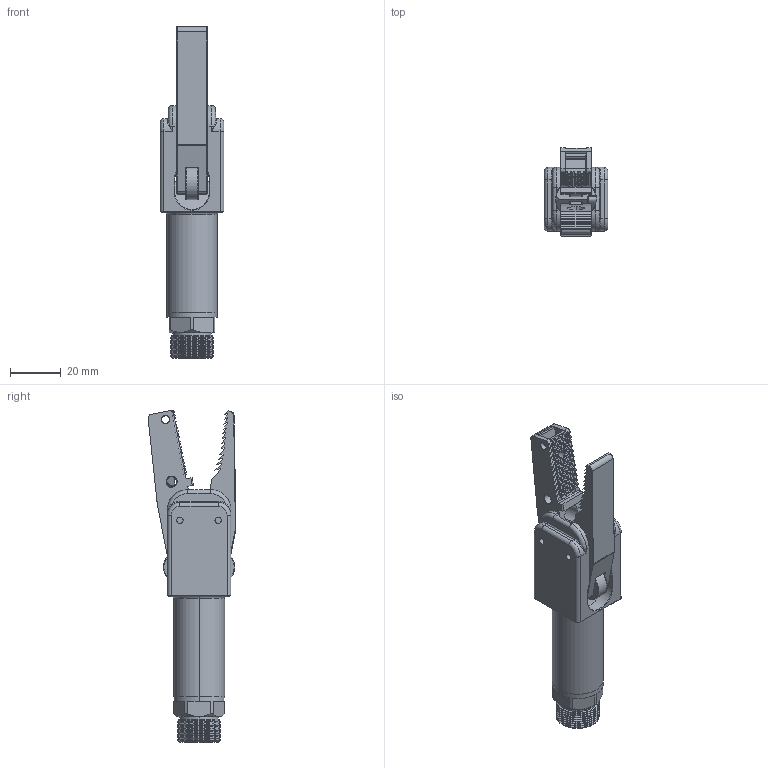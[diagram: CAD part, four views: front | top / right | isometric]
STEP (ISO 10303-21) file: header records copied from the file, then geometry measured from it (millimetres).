
FILE_DESCRIPTION (( 'STEP AP214' ), '1' );
FILE_NAME ('GRT20B-C.STEP', '2025-04-09T06:46:44', ( '微软用户' ), ( '微软中国' ), 'SwSTEP 2.0', 'SolidWorks 2018', '' );
FILE_SCHEMA (( 'AUTOMOTIVE_DESIGN' ));
Length unit declared in the file: millimetre
Products named in the file (11): GRT20B-C.sldasm-Part-10; GRT20B-C.sldasm-Part-9; GRT20B-C.sldasm-Part-8; GRT20B-C.sldasm-Part-7; GRT20B-C.sldasm-Part-6; GRT20B-C.sldasm-Part-5; GRT20B-C.sldasm-Part-4; GRT20B-C.sldasm-Part-3; GRT20B-C.sldasm-Part-2; GRT20B-C.sldasm-Part-1; GRT20B-C
Assembly tree (10 placements, depth 2):
  GRT20B-C
    GRT20B-C.sldasm-Part-1
    GRT20B-C.sldasm-Part-2
    GRT20B-C.sldasm-Part-3
    GRT20B-C.sldasm-Part-4
    GRT20B-C.sldasm-Part-5
    GRT20B-C.sldasm-Part-6
    GRT20B-C.sldasm-Part-7
    GRT20B-C.sldasm-Part-8
    GRT20B-C.sldasm-Part-9
    GRT20B-C.sldasm-Part-10
Bounding box: 25 x 34.48 x 130.31 mm (x, y, z)
Volume: 38745 mm3; surface area: 27764.9 mm2
Topology: 10 solids, 10 shells, 1071 faces, 2683 edges, 1680 vertices
Faces by surface type: plane 619, cylinder 223, cone 173, bspline 36, torus 20
Entity records: 33319 total; most frequent: CARTESIAN_POINT 7181, ORIENTED_EDGE 5354, DIRECTION 5255, EDGE_CURVE 2677, LINE 1917, VECTOR 1917, VERTEX_POINT 1680, AXIS2_PLACEMENT_3D 1669
